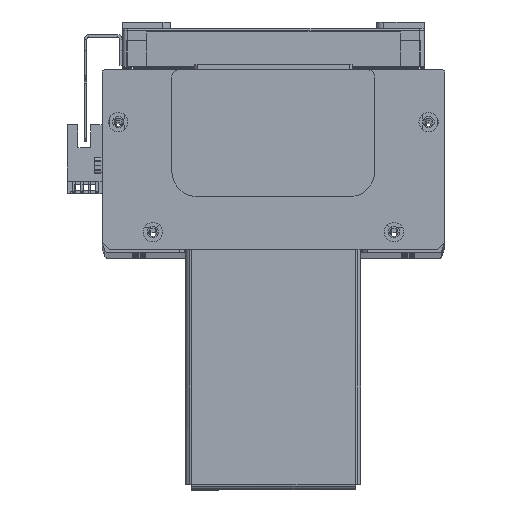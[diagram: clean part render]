
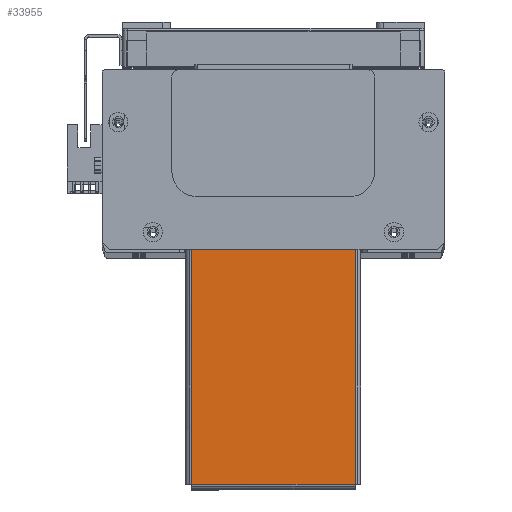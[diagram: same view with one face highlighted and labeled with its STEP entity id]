
A CAD part, top view. The second image highlights one B-rep face of the part: STEP entity #33955.
In plain terms, the highlighted planar face has unit normal (0, 0, 1) as drawn and (0, -1, 0) by its records, which use the part's own axes.
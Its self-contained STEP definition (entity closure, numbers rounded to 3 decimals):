
#642 = DIRECTION ( 'NONE',  ( 0., 0., -1. ) ) ;
#644 = CARTESIAN_POINT ( 'NONE',  ( -94.763, -1.5, 32.293 ) ) ;
#796 = DIRECTION ( 'NONE',  ( 1., 0., 0. ) ) ;
#809 = CARTESIAN_POINT ( 'NONE',  ( -94.793, -1.5, -32.263 ) ) ;
#839 = DIRECTION ( 'NONE',  ( 0., 0., -1. ) ) ;
#854 = CARTESIAN_POINT ( 'NONE',  ( -2., -1.5, 34.5 ) ) ;
#947 = VERTEX_POINT ( 'NONE', #65136 ) ;
#972 = VERTEX_POINT ( 'NONE', #65165 ) ;
#1005 = VERTEX_POINT ( 'NONE', #65190 ) ;
#13875 = VECTOR ( 'NONE', #642, 1000. ) ;
#13935 = LINE ( 'NONE', #644, #13875 ) ;
#14020 = LINE ( 'NONE', #809, #14098 ) ;
#14046 = VECTOR ( 'NONE', #839, 1000. ) ;
#14098 = VECTOR ( 'NONE', #796, 1000. ) ;
#14120 = LINE ( 'NONE', #854, #14046 ) ;
#14130 = LINE ( 'NONE', #44310, #14211 ) ;
#14211 = VECTOR ( 'NONE', #44290, 1000. ) ;
#33955 = ADVANCED_FACE ( 'NONE', ( #54316 ), #52341, .F. ) ;
#36186 = EDGE_LOOP ( 'NONE', ( #63481, #63525, #63478, #63484 ) ) ;
#42230 = CARTESIAN_POINT ( 'NONE',  ( -2., -1.5, -32.263 ) ) ;
#44290 = DIRECTION ( 'NONE',  ( -1., 0., 0. ) ) ;
#44310 = CARTESIAN_POINT ( 'NONE',  ( 94.793, -1.5, 32.263 ) ) ;
#52341 = PLANE ( 'NONE',  #58679 ) ;
#52343 = CARTESIAN_POINT ( 'NONE',  ( 0., -1.5, 0. ) ) ;
#52354 = DIRECTION ( 'NONE',  ( 0., 0., 1. ) ) ;
#52362 = DIRECTION ( 'NONE',  ( 0., 1., 0. ) ) ;
#54316 = FACE_OUTER_BOUND ( 'NONE', #36186, .T. ) ;
#57467 = EDGE_CURVE ( 'NONE', #1005, #972, #13935, .T. ) ;
#57522 = EDGE_CURVE ( 'NONE', #972, #59440, #14020, .T. ) ;
#57541 = EDGE_CURVE ( 'NONE', #947, #59440, #14120, .T. ) ;
#57581 = EDGE_CURVE ( 'NONE', #947, #1005, #14130, .T. ) ;
#58679 = AXIS2_PLACEMENT_3D ( 'NONE', #52343, #52362, #52354 ) ;
#59440 = VERTEX_POINT ( 'NONE', #42230 ) ;
#63478 = ORIENTED_EDGE ( 'NONE', *, *, #57581, .T. ) ;
#63481 = ORIENTED_EDGE ( 'NONE', *, *, #57522, .T. ) ;
#63484 = ORIENTED_EDGE ( 'NONE', *, *, #57467, .T. ) ;
#63525 = ORIENTED_EDGE ( 'NONE', *, *, #57541, .F. ) ;
#65136 = CARTESIAN_POINT ( 'NONE',  ( -2., -1.5, 32.263 ) ) ;
#65165 = CARTESIAN_POINT ( 'NONE',  ( -94.763, -1.5, -32.263 ) ) ;
#65190 = CARTESIAN_POINT ( 'NONE',  ( -94.763, -1.5, 32.263 ) ) ;
